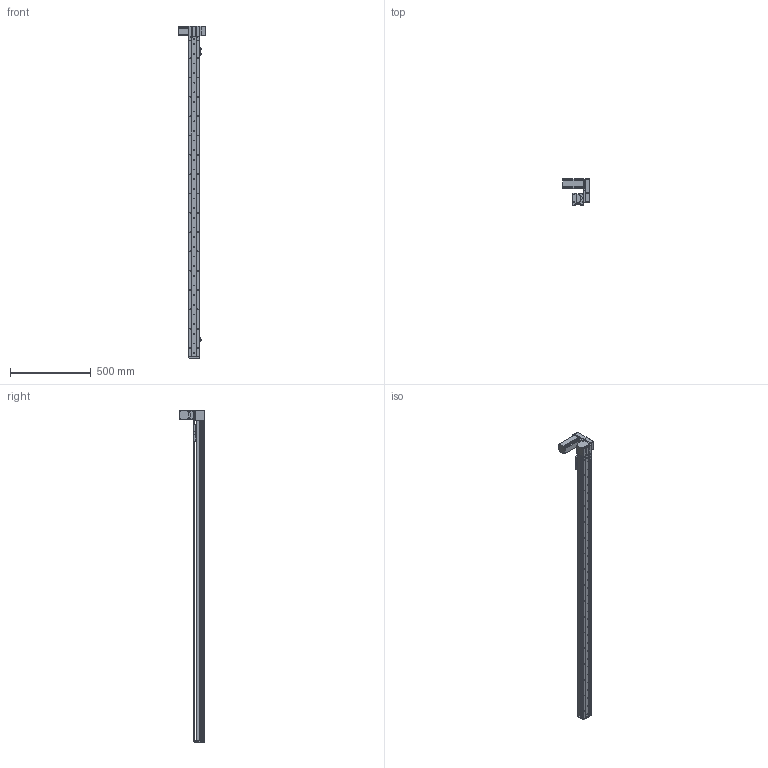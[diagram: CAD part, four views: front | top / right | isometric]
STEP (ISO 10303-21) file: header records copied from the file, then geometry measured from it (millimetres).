
FILE_DESCRIPTION (( 'STEP AP214' ), '1' );
FILE_NAME ('KSD68BS-S1800-MLU-CM.STEP', '2019-10-19T09:31:06', ( '微软用户' ), ( '微软中国' ), 'SwSTEP 2.0', 'SolidWorks 2014', '' );
FILE_SCHEMA (( 'AUTOMOTIVE_DESIGN' ));
Length unit declared in the file: millimetre
Products named in the file (11): 覜茼え68遵圉猾敕; KSD68BS半封闭同步带传动导轨座; U倰嫖萇EEㄜSX672; 台达ECMA－C20604AS伺服电机（400W); KSD68BS 1800俴最菁啣圉猾敕; KSD68BS-S1800-MLU-CM; 悵誘欶奻狟殏; 68宽马达安装板连板上折同步带; 68宽单导轨半封闭同步带主动轮座左; 68单导轨同步带半封闭端板; KSD68BS 1800俴最裔啣圉猾敕
Assembly tree (12 placements, depth 2):
  KSD68BS-S1800-MLU-CM
    KSD68BS 1800俴最菁啣圉猾敕
    台达ECMA－C20604AS伺服电机（400W)
    U倰嫖萇EEㄜSX672  x3
    KSD68BS半封闭同步带传动导轨座
    覜茼え68遵圉猾敕
    KSD68BS 1800俴最裔啣圉猾敕
    68单导轨同步带半封闭端板
    68宽单导轨半封闭同步带主动轮座左
    68宽马达安装板连板上折同步带
    悵誘欶奻狟殏
Bounding box: 167.2 x 159.5 x 2062 mm (x, y, z)
Volume: 3379978.3 mm3; surface area: 1268148.9 mm2
Topology: 13 solids, 13 shells, 1642 faces, 4828 edges, 3148 vertices
Faces by surface type: cylinder 874, plane 685, cone 83
Entity records: 64782 total; most frequent: CARTESIAN_POINT 13178, ORIENTED_EDGE 8408, DIRECTION 8096, EDGE_CURVE 4204, AXIS2_PLACEMENT_3D 2922, VERTEX_POINT 2772, VECTOR 2252, LINE 2252
